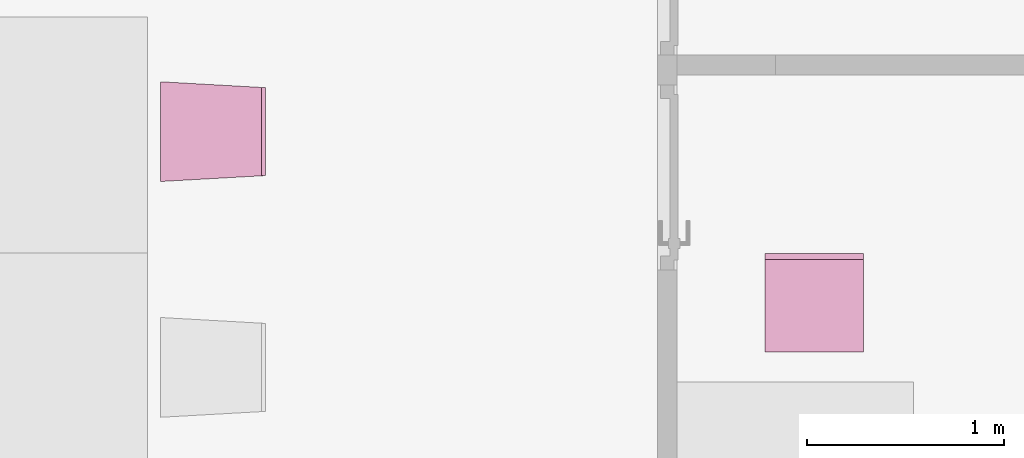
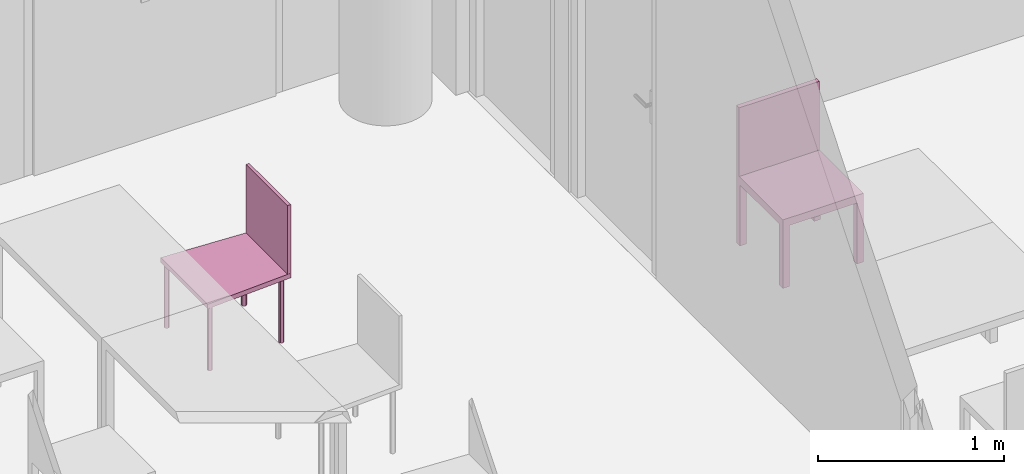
"""IFC4 building model written with IfcOpenShell, lengths in metres."""

from ifc_helpers import new_model, entity, si_unit, converted_unit, derived_unit, frame, origin, place, context, subcontext, project, spatial, faceted_brep, element, save


model = new_model("IFC4")

# Units and contexts
model_context = context("Model", 3, precision=1e-05, world=origin())
body_context = subcontext(model_context, "Body", "Model", "MODEL_VIEW")
ifc_project = project(units=[si_unit("LENGTHUNIT", "METRE"), si_unit("AREAUNIT", "SQUARE_METRE"), si_unit("VOLUMEUNIT", "CUBIC_METRE"), si_unit("MASSUNIT", "GRAM", prefix="KILO"), converted_unit("PLANEANGLEUNIT", "DEGREE", entity("IfcPlaneAngleMeasure", 0.0174532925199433), si_unit("PLANEANGLEUNIT", "RADIAN"), dimensions=[0, 0, 0, 0, 0, 0, 0]), derived_unit("THERMALTRANSMITTANCEUNIT", [(si_unit("POWERUNIT", "WATT"), 1), (si_unit("THERMODYNAMICTEMPERATUREUNIT", "KELVIN"), -1), (si_unit("LENGTHUNIT", "METRE"), -2)]), derived_unit("VOLUMETRICFLOWRATEUNIT", [(si_unit("LENGTHUNIT", "METRE"), 3), (converted_unit("TIMEUNIT", "hour", entity("IfcTimeMeasure", 3600.0), si_unit("TIMEUNIT", "SECOND"), dimensions=[0, 0, 1, 0, 0, 0, 0]), -1), (si_unit("LENGTHUNIT", "METRE"), -1)])], contexts=[model_context])

# Building, storeys
building_placement = place(None, origin())
building = spatial("IfcBuilding", under=ifc_project, at=building_placement, Name="HABITATGE PLURIFAMILIAR", CompositionType="ELEMENT")
storey_1_placement = place(building_placement, frame((0.0, 0.0, 6.25)))
storey_1 = spatial("IfcBuildingStorey", under=building, at=storey_1_placement, Name="PLANTA PRIMERA", CompositionType="ELEMENT", Elevation=6.25)
storey_2_placement = place(storey_1_placement, frame((0.0, 0.0, 3.35)))
storey_2 = spatial("IfcBuildingStorey", under=storey_1, at=storey_2_placement, Name="NOU", CompositionType="PARTIAL")

# Furniture
furniture_1_placement = place(storey_2_placement, frame((421.952713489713, 21.2948269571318, -3.34942958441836)))
element("IfcFurniture", 1, at=furniture_1_placement, inside=storey_2, Name="Cadira d'Oficina_P1", context=body_context, shape_type="Brep", body=[
    faceted_brep([(0.0, 0.0, 0.4), (0.5, 0.0, 0.4), (0.5, 0.5, 0.4), (0.0, 0.5, 0.4), (0.0, 0.5, 0.45), (0.5, 0.5, 0.45), (0.5, 0.0, 0.45), (0.0, 0.0, 0.45)], [[[0, 1, 2, 3]], [[4, 5, 6, 7]], [[3, 4, 7, 0]], [[2, 5, 4, 3]], [[1, 6, 5, 2]], [[0, 7, 6, 1]]], orient=[[False], [False], [False], [False], [False], [False]]),
    faceted_brep([(0.5, 0.46, 0.0), (0.5, 0.5, 0.0), (0.46, 0.5, 0.0), (0.46, 0.46, 0.0), (0.46, 0.46, 0.4), (0.46, 0.5, 0.4), (0.5, 0.5, 0.4), (0.5, 0.46, 0.4)], [[[0, 1, 2, 3]], [[4, 5, 6, 7]], [[3, 4, 7, 0]], [[2, 5, 4, 3]], [[1, 6, 5, 2]], [[0, 7, 6, 1]]], orient=[[False], [False], [False], [False], [False], [False]]),
    faceted_brep([(0.5, 0.0, 0.0), (0.5, 0.04, 0.0), (0.46, 0.04, 0.0), (0.46, 0.0, 0.0), (0.46, 0.0, 0.4), (0.46, 0.04, 0.4), (0.5, 0.04, 0.4), (0.5, 0.0, 0.4)], [[[0, 1, 2, 3]], [[4, 5, 6, 7]], [[3, 4, 7, 0]], [[2, 5, 4, 3]], [[1, 6, 5, 2]], [[0, 7, 6, 1]]], orient=[[False], [False], [False], [False], [False], [False]]),
    faceted_brep([(0.04, 0.46, 0.0), (0.04, 0.5, 0.0), (0.0, 0.5, 0.0), (0.0, 0.46, 0.0), (0.0, 0.46, 0.4), (0.0, 0.5, 0.4), (0.04, 0.5, 0.4), (0.04, 0.46, 0.4)], [[[0, 1, 2, 3]], [[4, 5, 6, 7]], [[3, 4, 7, 0]], [[2, 5, 4, 3]], [[1, 6, 5, 2]], [[0, 7, 6, 1]]], orient=[[False], [False], [False], [False], [False], [False]]),
    faceted_brep([(0.04, 0.0, 0.0), (0.04, 0.04, 0.0), (0.0, 0.04, 0.0), (0.0, 0.0, 0.0), (0.0, 0.0, 0.4), (0.0, 0.04, 0.4), (0.04, 0.04, 0.4), (0.04, 0.0, 0.4)], [[[0, 1, 2, 3]], [[4, 5, 6, 7]], [[3, 4, 7, 0]], [[2, 5, 4, 3]], [[1, 6, 5, 2]], [[0, 7, 6, 1]]], orient=[[False], [False], [False], [False], [False], [False]]),
    faceted_brep([(0.5, 0.47, 0.45), (0.5, 0.5, 0.45), (0.0, 0.5, 0.45), (0.0, 0.47, 0.45), (0.0, 0.47, 0.9), (0.0, 0.5, 0.9), (0.5, 0.5, 0.9), (0.5, 0.47, 0.9)], [[[0, 1, 2, 3]], [[4, 5, 6, 7]], [[3, 4, 7, 0]], [[2, 5, 4, 3]], [[1, 6, 5, 2]], [[0, 7, 6, 1]]], orient=[[False], [False], [False], [False], [False], [False]]),
])
furniture_2_placement = place(storey_2_placement, frame((418.884487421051, 22.1596386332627, -3.35114412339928)))
element("IfcFurniture", 2, at=furniture_2_placement, inside=storey_2, Name="Cadira confient_P1", context=body_context, shape_type="Brep", body=[
    faceted_brep([(0.0250324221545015, 0.497227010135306, 0.0), (0.0224394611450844, 0.496988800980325, 0.0), (0.0199272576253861, 0.496303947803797, 0.0), (0.0175721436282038, 0.495193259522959, 0.0), (0.015445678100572, 0.493690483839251, 0.0), (0.013612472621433, 0.491841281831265, 0.0), (0.0121282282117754, 0.489701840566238, 0.0), (0.0110380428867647, 0.487337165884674, 0.0), (0.0103750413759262, 0.48481910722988, 0.0), (0.0101593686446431, 0.482224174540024, 0.0), (0.0103975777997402, 0.479631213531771, 0.0), (0.0110824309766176, 0.477119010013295, 0.0), (0.0121931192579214, 0.474763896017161, 0.0), (0.0136958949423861, 0.472637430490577, 0.0), (0.0155450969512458, 0.470804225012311, 0.0), (0.017684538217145, 0.469319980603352, 0.0), (0.020049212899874, 0.468229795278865, 0.0), (0.0225672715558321, 0.467566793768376, 0.0), (0.0251622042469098, 0.467351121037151, 0.0), (0.027755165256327, 0.46758933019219, 0.0), (0.0302673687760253, 0.468274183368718, 0.0), (0.0326224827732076, 0.469384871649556, 0.0), (0.0347489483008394, 0.470887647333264, 0.0), (0.0365821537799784, 0.47273684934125, 0.0), (0.0380663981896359, 0.47487629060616, 0.0), (0.0391565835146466, 0.477240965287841, 0.0), (0.0398195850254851, 0.479759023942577, 0.0), (0.0400352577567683, 0.482353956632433, 0.0), (0.0397970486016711, 0.484946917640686, 0.0), (0.039112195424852, 0.48745912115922, 0.0), (0.03800150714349, 0.489814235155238, 0.0), (0.0364987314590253, 0.491940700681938, 0.0), (0.0346495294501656, 0.493773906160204, 0.0), (0.0325100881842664, 0.495258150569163, 0.0), (0.0301454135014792, 0.49634833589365, 0.0), (0.0276273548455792, 0.497011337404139, 0.0), (0.0250324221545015, 0.497227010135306, 0.448281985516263), (0.0276273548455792, 0.497011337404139, 0.448281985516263), (0.0301454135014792, 0.49634833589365, 0.448281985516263), (0.0325100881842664, 0.495258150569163, 0.448281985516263), (0.0346495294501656, 0.493773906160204, 0.448281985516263), (0.0364987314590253, 0.491940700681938, 0.448281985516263), (0.03800150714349, 0.489814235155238, 0.448281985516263), (0.039112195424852, 0.48745912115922, 0.448281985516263), (0.0397970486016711, 0.484946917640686, 0.448281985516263), (0.0400352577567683, 0.482353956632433, 0.448281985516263), (0.0398195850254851, 0.479759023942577, 0.448281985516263), (0.0391565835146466, 0.477240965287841, 0.448281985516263), (0.0380663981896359, 0.47487629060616, 0.448281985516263), (0.0365821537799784, 0.47273684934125, 0.448281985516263), (0.0347489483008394, 0.470887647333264, 0.448281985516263), (0.0326224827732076, 0.469384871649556, 0.448281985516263), (0.0302673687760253, 0.468274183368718, 0.448281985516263), (0.027755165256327, 0.46758933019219, 0.448281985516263), (0.0251622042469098, 0.467351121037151, 0.448281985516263), (0.0225672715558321, 0.467566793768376, 0.448281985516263), (0.020049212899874, 0.468229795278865, 0.448281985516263), (0.017684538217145, 0.469319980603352, 0.448281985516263), (0.0155450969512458, 0.470804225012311, 0.448281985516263), (0.0136958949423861, 0.472637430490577, 0.448281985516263), (0.0121931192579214, 0.474763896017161, 0.448281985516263), (0.0110824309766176, 0.477119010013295, 0.448281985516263), (0.0103975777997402, 0.479631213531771, 0.448281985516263), (0.0101593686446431, 0.482224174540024, 0.448281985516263), (0.0103750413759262, 0.48481910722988, 0.448281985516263), (0.0110380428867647, 0.487337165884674, 0.448281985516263), (0.0121282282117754, 0.489701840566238, 0.448281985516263), (0.013612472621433, 0.491841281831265, 0.448281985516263), (0.015445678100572, 0.493690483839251, 0.448281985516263), (0.0175721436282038, 0.495193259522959, 0.448281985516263), (0.0199272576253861, 0.496303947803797, 0.448281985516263), (0.0224394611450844, 0.496988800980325, 0.448281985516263)], [[[0, 1, 2, 3, 4, 5, 6, 7, 8, 9, 10, 11, 12, 13, 14, 15, 16, 17, 18, 19, 20, 21, 22, 23, 24, 25, 26, 27, 28, 29, 30, 31, 32, 33, 34, 35]], [[36, 37, 38, 39, 40, 41, 42, 43, 44, 45, 46, 47, 48, 49, 50, 51, 52, 53, 54, 55, 56, 57, 58, 59, 60, 61, 62, 63, 64, 65, 66, 67, 68, 69, 70, 71]], [[35, 37, 36, 0]], [[34, 38, 37, 35]], [[33, 39, 38, 34]], [[32, 40, 39, 33]], [[31, 41, 40, 32]], [[30, 42, 41, 31]], [[29, 43, 42, 30]], [[28, 44, 43, 29]], [[27, 45, 44, 28]], [[26, 46, 45, 27]], [[25, 47, 46, 26]], [[24, 48, 47, 25]], [[23, 49, 48, 24]], [[22, 50, 49, 23]], [[21, 51, 50, 22]], [[20, 52, 51, 21]], [[19, 53, 52, 20]], [[18, 54, 53, 19]], [[17, 55, 54, 18]], [[16, 56, 55, 17]], [[15, 57, 56, 16]], [[14, 58, 57, 15]], [[13, 59, 58, 14]], [[12, 60, 59, 13]], [[11, 61, 60, 12]], [[10, 62, 61, 11]], [[9, 63, 62, 10]], [[8, 64, 63, 9]], [[7, 65, 64, 8]], [[6, 66, 65, 7]], [[5, 67, 66, 6]], [[4, 68, 67, 5]], [[3, 69, 68, 4]], [[2, 70, 69, 3]], [[1, 71, 70, 2]], [[0, 36, 71, 1]]], orient=[[False], [False], [False], [False], [False], [False], [False], [False], [False], [False], [False], [False], [False], [False], [False], [False], [False], [False], [False], [False], [False], [False], [False], [False], [False], [False], [False], [False], [False], [False], [False], [False], [False], [False], [False], [False], [False], [False]]),
    faceted_brep([(0.487439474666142, 0.469589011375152, 0.0), (0.484846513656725, 0.469350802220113, 0.0), (0.482334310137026, 0.468665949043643, 0.0), (0.479979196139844, 0.467555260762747, 0.0), (0.477852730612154, 0.466052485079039, 0.0), (0.476019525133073, 0.464203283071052, 0.0), (0.474535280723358, 0.462063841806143, 0.0), (0.473445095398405, 0.459699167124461, 0.0), (0.472782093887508, 0.457181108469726, 0.0), (0.472566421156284, 0.45458617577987, 0.0), (0.472804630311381, 0.451993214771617, 0.0), (0.4734894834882, 0.449481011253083, 0.0), (0.474600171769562, 0.447125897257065, 0.0), (0.476102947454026, 0.444999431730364, 0.0), (0.477952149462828, 0.443166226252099, 0.0), (0.480091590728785, 0.44168198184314, 0.0), (0.482456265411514, 0.440591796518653, 0.0), (0.484974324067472, 0.439928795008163, 0.0), (0.487569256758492, 0.439713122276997, 0.0), (0.490162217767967, 0.439951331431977, 0.0), (0.492674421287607, 0.440636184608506, 0.0), (0.49502953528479, 0.441746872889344, 0.0), (0.49715600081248, 0.443249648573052, 0.0), (0.498989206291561, 0.445098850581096, 0.0), (0.500473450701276, 0.447238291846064, 0.0), (0.501563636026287, 0.449602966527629, 0.0), (0.502226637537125, 0.452121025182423, 0.0), (0.50244231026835, 0.454715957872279, 0.0), (0.502204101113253, 0.457308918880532, 0.0), (0.501519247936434, 0.459821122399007, 0.0), (0.500408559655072, 0.462176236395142, 0.0), (0.498905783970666, 0.464302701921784, 0.0), (0.497056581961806, 0.466135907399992, 0.0), (0.494917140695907, 0.467620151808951, 0.0), (0.49255246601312, 0.468710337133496, 0.0), (0.490034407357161, 0.469373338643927, 0.0), (0.487439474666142, 0.469589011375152, 0.448281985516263), (0.490034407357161, 0.469373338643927, 0.448281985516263), (0.49255246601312, 0.468710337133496, 0.448281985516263), (0.494917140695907, 0.467620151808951, 0.448281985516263), (0.497056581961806, 0.466135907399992, 0.448281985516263), (0.498905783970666, 0.464302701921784, 0.448281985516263), (0.500408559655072, 0.462176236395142, 0.448281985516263), (0.501519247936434, 0.459821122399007, 0.448281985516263), (0.502204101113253, 0.457308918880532, 0.448281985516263), (0.50244231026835, 0.454715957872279, 0.448281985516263), (0.502226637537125, 0.452121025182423, 0.448281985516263), (0.501563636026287, 0.449602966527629, 0.448281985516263), (0.500473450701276, 0.447238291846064, 0.448281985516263), (0.498989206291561, 0.445098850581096, 0.448281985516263), (0.49715600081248, 0.443249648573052, 0.448281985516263), (0.49502953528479, 0.441746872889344, 0.448281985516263), (0.492674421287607, 0.440636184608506, 0.448281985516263), (0.490162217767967, 0.439951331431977, 0.448281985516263), (0.487569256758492, 0.439713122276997, 0.448281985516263), (0.484974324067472, 0.439928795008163, 0.448281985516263), (0.482456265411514, 0.440591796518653, 0.448281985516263), (0.480091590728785, 0.44168198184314, 0.448281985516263), (0.477952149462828, 0.443166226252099, 0.448281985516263), (0.476102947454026, 0.444999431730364, 0.448281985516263), (0.474600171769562, 0.447125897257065, 0.448281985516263), (0.4734894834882, 0.449481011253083, 0.448281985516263), (0.472804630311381, 0.451993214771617, 0.448281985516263), (0.472566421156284, 0.45458617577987, 0.448281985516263), (0.472782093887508, 0.457181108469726, 0.448281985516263), (0.473445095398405, 0.459699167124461, 0.448281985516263), (0.474535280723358, 0.462063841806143, 0.448281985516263), (0.476019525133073, 0.464203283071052, 0.448281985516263), (0.477852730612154, 0.466052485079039, 0.448281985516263), (0.479979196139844, 0.467555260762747, 0.448281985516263), (0.482334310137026, 0.468665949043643, 0.448281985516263), (0.484846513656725, 0.469350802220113, 0.448281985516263)], [[[0, 1, 2, 3, 4, 5, 6, 7, 8, 9, 10, 11, 12, 13, 14, 15, 16, 17, 18, 19, 20, 21, 22, 23, 24, 25, 26, 27, 28, 29, 30, 31, 32, 33, 34, 35]], [[36, 37, 38, 39, 40, 41, 42, 43, 44, 45, 46, 47, 48, 49, 50, 51, 52, 53, 54, 55, 56, 57, 58, 59, 60, 61, 62, 63, 64, 65, 66, 67, 68, 69, 70, 71]], [[35, 37, 36, 0]], [[34, 38, 37, 35]], [[33, 39, 38, 34]], [[32, 40, 39, 33]], [[31, 41, 40, 32]], [[30, 42, 41, 31]], [[29, 43, 42, 30]], [[28, 44, 43, 29]], [[27, 45, 44, 28]], [[26, 46, 45, 27]], [[25, 47, 46, 26]], [[24, 48, 47, 25]], [[23, 49, 48, 24]], [[22, 50, 49, 23]], [[21, 51, 50, 22]], [[20, 52, 51, 21]], [[19, 53, 52, 20]], [[18, 54, 53, 19]], [[17, 55, 54, 18]], [[16, 56, 55, 17]], [[15, 57, 56, 16]], [[14, 58, 57, 15]], [[13, 59, 58, 14]], [[12, 60, 59, 13]], [[11, 61, 60, 12]], [[10, 62, 61, 11]], [[9, 63, 62, 10]], [[8, 64, 63, 9]], [[7, 65, 64, 8]], [[6, 66, 65, 7]], [[5, 67, 66, 6]], [[4, 68, 67, 5]], [[3, 69, 68, 4]], [[2, 70, 69, 3]], [[1, 71, 70, 2]], [[0, 36, 71, 1]]], orient=[[False], [False], [False], [False], [False], [False], [False], [False], [False], [False], [False], [False], [False], [False], [False], [False], [False], [False], [False], [False], [False], [False], [False], [False], [False], [False], [False], [False], [False], [False], [False], [False], [False], [False], [False], [False], [False], [False]]),
    faceted_brep([(0.0250324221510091, 0.0372270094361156, 0.0), (0.0224394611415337, 0.0369888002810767, 0.0), (0.0199272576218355, 0.036303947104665, 0.0), (0.0175721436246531, 0.0351932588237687, 0.0), (0.0154456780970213, 0.0336904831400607, 0.0), (0.0136124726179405, 0.0318412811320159, 0.0), (0.0121282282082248, 0.0297018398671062, 0.0), (0.0110380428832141, 0.0273371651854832, 0.0), (0.0103750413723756, 0.0248191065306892, 0.0), (0.0101593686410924, 0.0222241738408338, 0.0), (0.0103975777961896, 0.019631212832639, 0.0), (0.0110824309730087, 0.0171190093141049, 0.0), (0.0121931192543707, 0.0147638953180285, 0.0), (0.0136958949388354, 0.012637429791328, 0.0), (0.0155450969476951, 0.0108042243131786, 0.0), (0.0176845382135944, 0.00931997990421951, 0.0), (0.0200492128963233, 0.00822979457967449, 0.0), (0.0225672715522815, 0.00756679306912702, 0.0), (0.0251622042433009, 0.00735112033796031, 0.0), (0.0277551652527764, 0.00758932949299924, 0.0), (0.0302673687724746, 0.00827418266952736, 0.0), (0.0326224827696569, 0.00938487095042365, 0.0), (0.0347489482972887, 0.0108876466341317, 0.0), (0.0365821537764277, 0.0127368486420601, 0.0), (0.0380663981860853, 0.014876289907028, 0.0), (0.039156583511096, 0.017240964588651, 0.0), (0.0398195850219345, 0.019759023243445, 0.0), (0.0400352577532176, 0.0223539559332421, 0.0), (0.0397970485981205, 0.0249469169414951, 0.0), (0.0391121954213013, 0.0274591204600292, 0.0), (0.0380015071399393, 0.0298142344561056, 0.0), (0.0364987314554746, 0.0319406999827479, 0.0), (0.0346495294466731, 0.0337739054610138, 0.0), (0.0325100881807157, 0.0352581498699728, 0.0), (0.0301454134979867, 0.0363483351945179, 0.0), (0.0276273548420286, 0.0370113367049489, 0.0), (0.0250324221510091, 0.0372270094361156, 0.448281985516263), (0.0276273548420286, 0.0370113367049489, 0.448281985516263), (0.0301454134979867, 0.0363483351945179, 0.448281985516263), (0.0325100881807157, 0.0352581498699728, 0.448281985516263), (0.0346495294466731, 0.0337739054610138, 0.448281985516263), (0.0364987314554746, 0.0319406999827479, 0.448281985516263), (0.0380015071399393, 0.0298142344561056, 0.448281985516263), (0.0391121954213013, 0.0274591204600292, 0.448281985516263), (0.0397970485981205, 0.0249469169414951, 0.448281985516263), (0.0400352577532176, 0.0223539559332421, 0.448281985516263), (0.0398195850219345, 0.019759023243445, 0.448281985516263), (0.039156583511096, 0.017240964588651, 0.448281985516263), (0.0380663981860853, 0.014876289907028, 0.448281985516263), (0.0365821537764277, 0.0127368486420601, 0.448281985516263), (0.0347489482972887, 0.0108876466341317, 0.448281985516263), (0.0326224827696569, 0.00938487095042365, 0.448281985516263), (0.0302673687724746, 0.00827418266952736, 0.448281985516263), (0.0277551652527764, 0.00758932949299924, 0.448281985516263), (0.0251622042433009, 0.00735112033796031, 0.448281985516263), (0.0225672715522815, 0.00756679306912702, 0.448281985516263), (0.0200492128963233, 0.00822979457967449, 0.448281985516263), (0.0176845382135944, 0.00931997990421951, 0.448281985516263), (0.0155450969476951, 0.0108042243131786, 0.448281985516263), (0.0136958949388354, 0.012637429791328, 0.448281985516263), (0.0121931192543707, 0.0147638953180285, 0.448281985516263), (0.0110824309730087, 0.0171190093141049, 0.448281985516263), (0.0103975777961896, 0.019631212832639, 0.448281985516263), (0.0101593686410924, 0.0222241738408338, 0.448281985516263), (0.0103750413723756, 0.0248191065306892, 0.448281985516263), (0.0110380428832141, 0.0273371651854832, 0.448281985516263), (0.0121282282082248, 0.0297018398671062, 0.448281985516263), (0.0136124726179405, 0.0318412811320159, 0.448281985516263), (0.0154456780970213, 0.0336904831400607, 0.448281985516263), (0.0175721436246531, 0.0351932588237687, 0.448281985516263), (0.0199272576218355, 0.036303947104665, 0.448281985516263), (0.0224394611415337, 0.0369888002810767, 0.448281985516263)], [[[0, 1, 2, 3, 4, 5, 6, 7, 8, 9, 10, 11, 12, 13, 14, 15, 16, 17, 18, 19, 20, 21, 22, 23, 24, 25, 26, 27, 28, 29, 30, 31, 32, 33, 34, 35]], [[36, 37, 38, 39, 40, 41, 42, 43, 44, 45, 46, 47, 48, 49, 50, 51, 52, 53, 54, 55, 56, 57, 58, 59, 60, 61, 62, 63, 64, 65, 66, 67, 68, 69, 70, 71]], [[35, 37, 36, 0]], [[34, 38, 37, 35]], [[33, 39, 38, 34]], [[32, 40, 39, 33]], [[31, 41, 40, 32]], [[30, 42, 41, 31]], [[29, 43, 42, 30]], [[28, 44, 43, 29]], [[27, 45, 44, 28]], [[26, 46, 45, 27]], [[25, 47, 46, 26]], [[24, 48, 47, 25]], [[23, 49, 48, 24]], [[22, 50, 49, 23]], [[21, 51, 50, 22]], [[20, 52, 51, 21]], [[19, 53, 52, 20]], [[18, 54, 53, 19]], [[17, 55, 54, 18]], [[16, 56, 55, 17]], [[15, 57, 56, 16]], [[14, 58, 57, 15]], [[13, 59, 58, 14]], [[12, 60, 59, 13]], [[11, 61, 60, 12]], [[10, 62, 61, 11]], [[9, 63, 62, 10]], [[8, 64, 63, 9]], [[7, 65, 64, 8]], [[6, 66, 65, 7]], [[5, 67, 66, 6]], [[4, 68, 67, 5]], [[3, 69, 68, 4]], [[2, 70, 69, 3]], [[1, 71, 70, 2]], [[0, 36, 71, 1]]], orient=[[False], [False], [False], [False], [False], [False], [False], [False], [False], [False], [False], [False], [False], [False], [False], [False], [False], [False], [False], [False], [False], [False], [False], [False], [False], [False], [False], [False], [False], [False], [False], [False], [False], [False], [False], [False], [False], [False]]),
    faceted_brep([(0.487439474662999, 0.0695890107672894, 0.0), (0.484846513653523, 0.0693508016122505, 0.0), (0.482334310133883, 0.0686659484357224, 0.0), (0.479979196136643, 0.0675552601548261, 0.0), (0.477852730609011, 0.0660524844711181, 0.0), (0.47601952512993, 0.0642032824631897, 0.0), (0.474535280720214, 0.0620638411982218, 0.0), (0.473445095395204, 0.0596991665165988, 0.0), (0.472782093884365, 0.0571811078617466, 0.0), (0.47256642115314, 0.0545861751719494, 0.0), (0.472804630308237, 0.0519932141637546, 0.0), (0.473489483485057, 0.0494810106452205, 0.0), (0.474600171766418, 0.0471258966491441, 0.0), (0.476102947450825, 0.0449994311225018, 0.0), (0.477952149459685, 0.043166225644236, 0.0), (0.480091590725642, 0.0416819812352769, 0.0), (0.482456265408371, 0.0405917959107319, 0.0), (0.484974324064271, 0.0399287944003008, 0.0), (0.487569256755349, 0.0397131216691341, 0.0), (0.490162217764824, 0.0399513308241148, 0.0), (0.492674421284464, 0.0406361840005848, 0.0), (0.495029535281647, 0.041746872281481, 0.0), (0.497156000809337, 0.0432496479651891, 0.0), (0.498989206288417, 0.0450988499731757, 0.0), (0.500473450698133, 0.0472382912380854, 0.0), (0.501563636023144, 0.0496029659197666, 0.0), (0.502226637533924, 0.0521210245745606, 0.0), (0.502442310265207, 0.0547159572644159, 0.0), (0.50220410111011, 0.0573089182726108, 0.0), (0.501519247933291, 0.0598211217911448, 0.0), (0.500408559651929, 0.062176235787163, 0.0), (0.498905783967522, 0.0643027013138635, 0.0), (0.497056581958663, 0.0661359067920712, 0.0), (0.494917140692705, 0.0676201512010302, 0.0), (0.492552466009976, 0.0687103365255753, 0.0), (0.490034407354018, 0.0693733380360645, 0.0), (0.487439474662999, 0.0695890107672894, 0.448281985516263), (0.490034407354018, 0.0693733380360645, 0.448281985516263), (0.492552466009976, 0.0687103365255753, 0.448281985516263), (0.494917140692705, 0.0676201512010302, 0.448281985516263), (0.497056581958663, 0.0661359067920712, 0.448281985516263), (0.498905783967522, 0.0643027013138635, 0.448281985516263), (0.500408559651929, 0.062176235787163, 0.448281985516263), (0.501519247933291, 0.0598211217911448, 0.448281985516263), (0.50220410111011, 0.0573089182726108, 0.448281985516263), (0.502442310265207, 0.0547159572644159, 0.448281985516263), (0.502226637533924, 0.0521210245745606, 0.448281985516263), (0.501563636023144, 0.0496029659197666, 0.448281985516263), (0.500473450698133, 0.0472382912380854, 0.448281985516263), (0.498989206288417, 0.0450988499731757, 0.448281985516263), (0.497156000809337, 0.0432496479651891, 0.448281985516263), (0.495029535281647, 0.041746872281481, 0.448281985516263), (0.492674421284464, 0.0406361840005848, 0.448281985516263), (0.490162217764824, 0.0399513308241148, 0.448281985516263), (0.487569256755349, 0.0397131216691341, 0.448281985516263), (0.484974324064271, 0.0399287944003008, 0.448281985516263), (0.482456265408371, 0.0405917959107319, 0.448281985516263), (0.480091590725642, 0.0416819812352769, 0.448281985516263), (0.477952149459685, 0.043166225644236, 0.448281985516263), (0.476102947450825, 0.0449994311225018, 0.448281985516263), (0.474600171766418, 0.0471258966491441, 0.448281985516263), (0.473489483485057, 0.0494810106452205, 0.448281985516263), (0.472804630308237, 0.0519932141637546, 0.448281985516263), (0.47256642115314, 0.0545861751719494, 0.448281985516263), (0.472782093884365, 0.0571811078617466, 0.448281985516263), (0.473445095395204, 0.0596991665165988, 0.448281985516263), (0.474535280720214, 0.0620638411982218, 0.448281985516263), (0.47601952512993, 0.0642032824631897, 0.448281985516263), (0.477852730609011, 0.0660524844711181, 0.448281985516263), (0.479979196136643, 0.0675552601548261, 0.448281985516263), (0.482334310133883, 0.0686659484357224, 0.448281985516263), (0.484846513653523, 0.0693508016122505, 0.448281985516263)], [[[0, 1, 2, 3, 4, 5, 6, 7, 8, 9, 10, 11, 12, 13, 14, 15, 16, 17, 18, 19, 20, 21, 22, 23, 24, 25, 26, 27, 28, 29, 30, 31, 32, 33, 34, 35]], [[36, 37, 38, 39, 40, 41, 42, 43, 44, 45, 46, 47, 48, 49, 50, 51, 52, 53, 54, 55, 56, 57, 58, 59, 60, 61, 62, 63, 64, 65, 66, 67, 68, 69, 70, 71]], [[35, 37, 36, 0]], [[34, 38, 37, 35]], [[33, 39, 38, 34]], [[32, 40, 39, 33]], [[31, 41, 40, 32]], [[30, 42, 41, 31]], [[29, 43, 42, 30]], [[28, 44, 43, 29]], [[27, 45, 44, 28]], [[26, 46, 45, 27]], [[25, 47, 46, 26]], [[24, 48, 47, 25]], [[23, 49, 48, 24]], [[22, 50, 49, 23]], [[21, 51, 50, 22]], [[20, 52, 51, 21]], [[19, 53, 52, 20]], [[18, 54, 53, 19]], [[17, 55, 54, 18]], [[16, 56, 55, 17]], [[15, 57, 56, 16]], [[14, 58, 57, 15]], [[13, 59, 58, 14]], [[12, 60, 59, 13]], [[11, 61, 60, 12]], [[10, 62, 61, 11]], [[9, 63, 62, 10]], [[8, 64, 63, 9]], [[7, 65, 64, 8]], [[6, 66, 65, 7]], [[5, 67, 66, 6]], [[4, 68, 67, 5]], [[3, 69, 68, 4]], [[2, 70, 69, 3]], [[1, 71, 70, 2]], [[0, 36, 71, 1]]], orient=[[False], [False], [False], [False], [False], [False], [False], [False], [False], [False], [False], [False], [False], [False], [False], [False], [False], [False], [False], [False], [False], [False], [False], [False], [False], [False], [False], [False], [False], [False], [False], [False], [False], [False], [False], [False], [False], [False]]),
    faceted_brep([(0.532607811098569, 0.0300000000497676, 0.418281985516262), (0.532607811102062, 0.476514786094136, 0.418281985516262), (0.0, 0.506514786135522, 0.418281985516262), (0.0, 0.0, 0.418281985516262), (0.0, 0.0, 0.448281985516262), (0.0, 0.506514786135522, 0.448281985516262), (0.532607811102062, 0.476514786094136, 0.448281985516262), (0.532607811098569, 0.0300000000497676, 0.448281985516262)], [[[0, 1, 2, 3]], [[4, 5, 6, 7]], [[3, 4, 7, 0]], [[2, 5, 4, 3]], [[1, 6, 5, 2]], [[0, 7, 6, 1]]], orient=[[False], [False], [False], [False], [False], [False]]),
    faceted_brep([(0.512607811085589, 0.0300000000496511, 0.448281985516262), (0.532607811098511, 0.0300000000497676, 0.448281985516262), (0.532607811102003, 0.476514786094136, 0.448281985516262), (0.512607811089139, 0.476514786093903, 0.448281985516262), (0.512607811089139, 0.476514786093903, 0.898281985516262), (0.532607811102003, 0.476514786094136, 0.898281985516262), (0.532607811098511, 0.0300000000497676, 0.898281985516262), (0.512607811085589, 0.0300000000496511, 0.898281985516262)], [[[0, 1, 2, 3]], [[4, 5, 6, 7]], [[3, 4, 7, 0]], [[2, 5, 4, 3]], [[1, 6, 5, 2]], [[0, 7, 6, 1]]], orient=[[False], [False], [False], [False], [False], [False]]),
])

save(model, "model.ifc")
